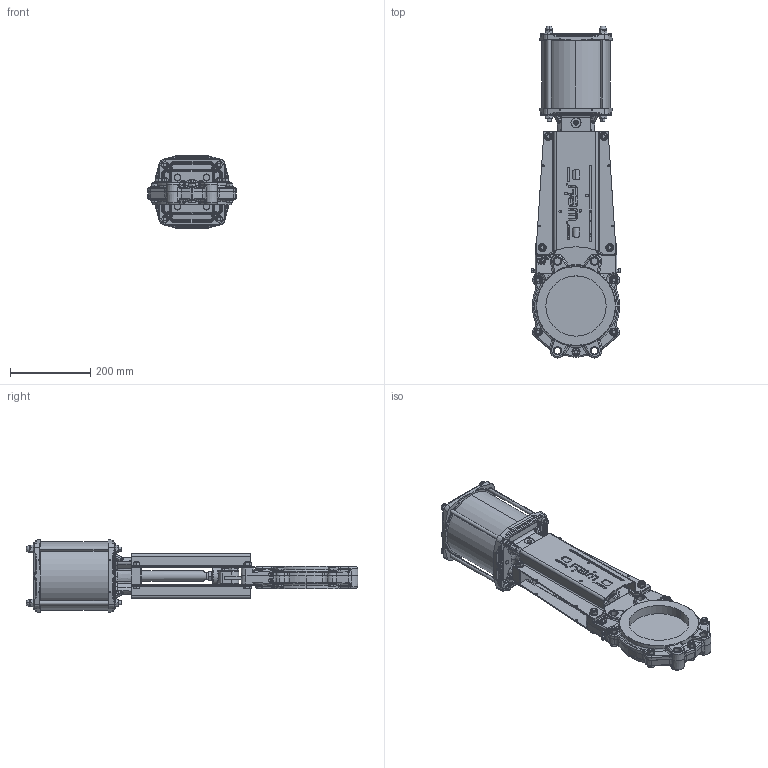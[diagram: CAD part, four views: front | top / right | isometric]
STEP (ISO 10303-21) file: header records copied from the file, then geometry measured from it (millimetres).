
FILE_DESCRIPTION (( 'STEP AP214' ), '1' );
FILE_NAME ('VSC DN 0150.STEP', '2015-09-23T11:08:03', ( 'admin' ), ( 'Hewlett-Packard Company' ), 'SwSTEP 2.0', 'SolidWorks 2013', '' );
FILE_SCHEMA (( 'AUTOMOTIVE_DESIGN' ));
Length unit declared in the file: millimetre
Products named in the file (1): VSC DN 0150
Bounding box: 222 x 826.97 x 180 mm (x, y, z)
Volume: 4462279.8 mm3; surface area: 1016731.9 mm2
Topology: 67 solids, 70 shells, 3654 faces, 8772 edges, 5201 vertices
Faces by surface type: plane 1090, cylinder 911, bspline 714, cone 673, torus 203, sphere 63
Entity records: 173009 total; most frequent: CARTESIAN_POINT 52946, ORIENTED_EDGE 17232, DIRECTION 15577, EDGE_CURVE 8616, AXIS2_PLACEMENT_3D 6226, VERTEX_POINT 5193, EDGE_LOOP 3969, UNCERTAINTY_MEASURE_WITH_UNIT 3723
